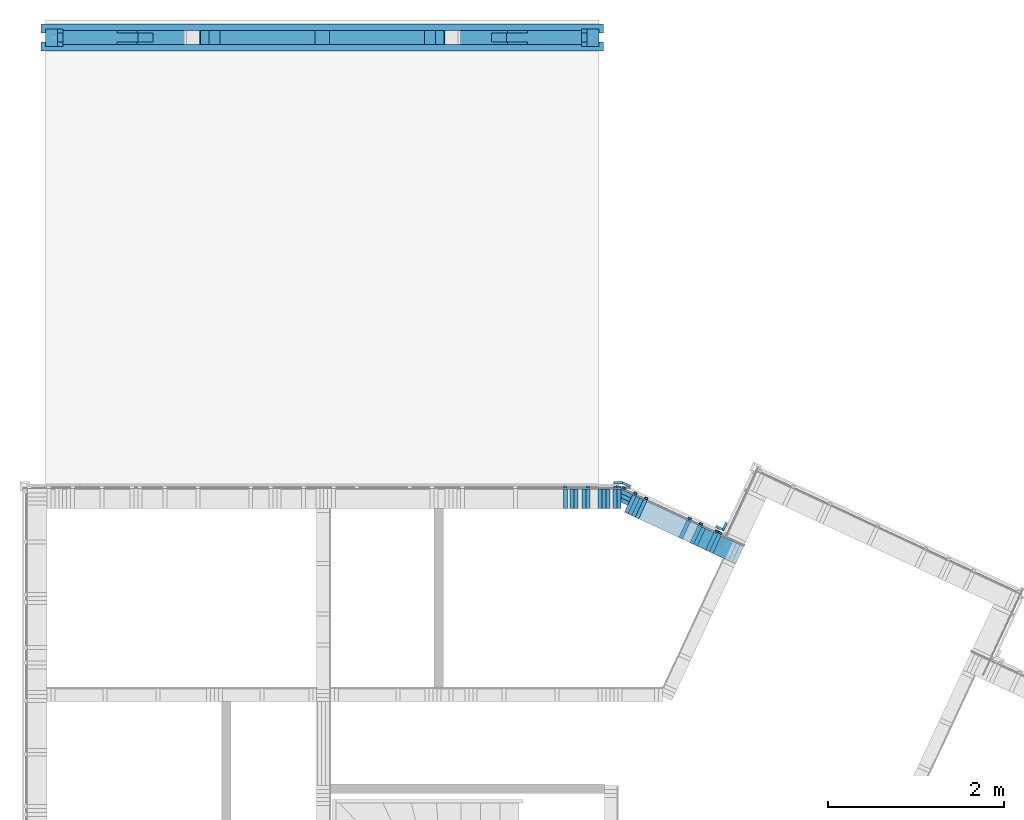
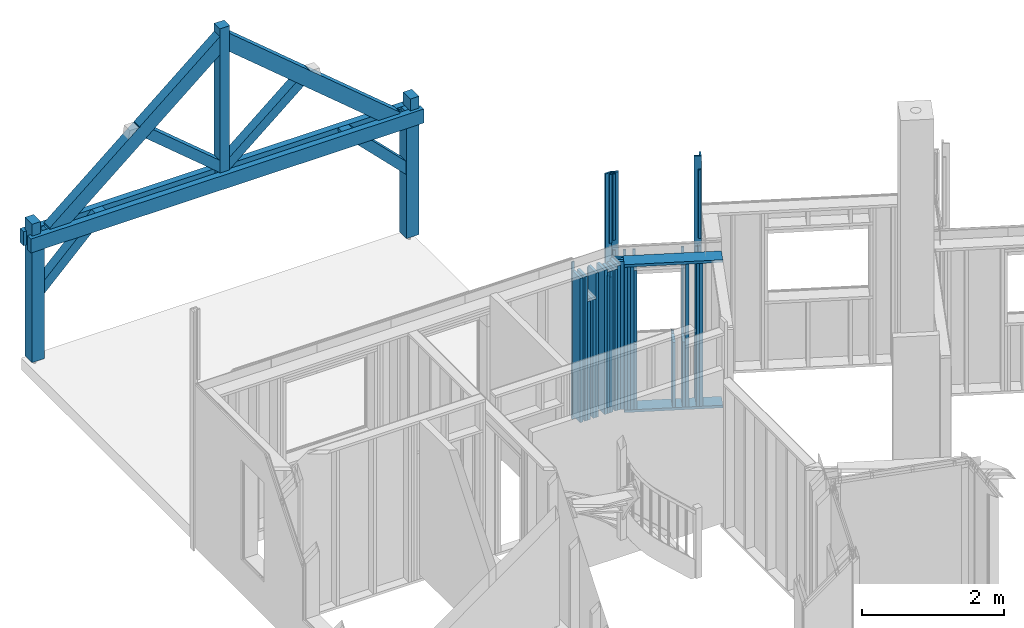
# One storey, part 14 of 34: 51 members, 3 beams.
"""IFC2X3 building model written with IfcOpenShell, lengths in metres."""

from ifc_helpers import new_model, si_unit, direction, frame, origin_with_axes, place, context, subcontext, project, spatial, faceted_brep, material, element, save


model = new_model("IFC2X3")

# Units and contexts
model_context = context("Model", 3, precision=1e-06, world=origin_with_axes(), true_north=direction((0.0, 1.0, 0.0)))
body_context = subcontext(model_context, "Body", "Model", "MODEL_VIEW")
ifc_project = project(units=[si_unit("LENGTHUNIT", "METRE"), si_unit("AREAUNIT", "SQUARE_METRE"), si_unit("VOLUMEUNIT", "CUBIC_METRE"), si_unit("PLANEANGLEUNIT", "RADIAN")], contexts=[model_context])

# Site, building, storey
site_placement = place(None, origin_with_axes())
site = spatial("IfcSite", under=ifc_project, at=site_placement, CompositionType="ELEMENT")
building_placement = place(site_placement, origin_with_axes())
building = spatial("IfcBuilding", under=site, at=building_placement, Name="Building 1", CompositionType="ELEMENT")
storey_placement = place(building_placement, origin_with_axes())
storey = spatial("IfcBuildingStorey", under=building, at=storey_placement, Name="Rez de chaussée", CompositionType="ELEMENT", Elevation=0.0)

# Members
ifc_material_1 = material(Name="NH II")
member_1_placement = place(storey_placement, frame((2.1231717, 13.0145, 3.2506677), z_axis=(0.6427876, 0.0, 0.7660444), x_axis=(0.7660444, 0.0, -0.6427876)))
element("IfcMember", 1, at=member_1_placement, inside=storey, material=ifc_material_1, Name="Contrefiche", context=body_context, shape_type="Brep", body=[
    faceted_brep([(0.0282123, 0.08, 0.08), (0.0282123, -0.08, 0.08), (1.4351717, -0.08, 0.08), (1.4351717, 0.08, 0.08), (0.0, -0.08, -0.08), (1.5694276, -0.08, -0.08), (0.0, 0.08, -0.08), (1.5694276, 0.08, -0.08)], [[[0, 1, 2, 3]], [[1, 4, 5, 2]], [[4, 6, 7, 5]], [[6, 0, 3, 7]], [[0, 6, 4, 1]], [[5, 7, 3, 2]]]),
])
member_2_placement = place(storey_placement, frame((7.8631362, 7.4516972, -0.08), z_axis=(-0.9063078, 0.4226183, 0.0), x_axis=(0.0, 0.0, 1.0)))
element("IfcMember", 2, at=member_2_placement, inside=storey, material=ifc_material_1, Name="Couvre joint", context=body_context, shape_type="Brep", body=[
    faceted_brep([(0.0, -0.0135, -0.0525), (0.0, 0.0135, -0.0255), (4.2710549, 0.0135, -0.0255), (4.2710549, -0.0135, -0.0525), (0.0, 0.0135, 0.0525), (4.2710549, 0.0135, 0.0525), (0.0, -0.0135, 0.0525), (4.2710549, -0.0135, 0.0525)], [[[0, 1, 2, 3]], [[2, 1, 4, 5]], [[1, 0, 6, 4]], [[3, 2, 5, 7]], [[7, 6, 0, 3]], [[5, 4, 6, 7]]]),
])
ifc_material_2 = material(Name="Epicéa C24")
member_3_placement = place(storey_placement, frame((6.7878318, 7.7997503, 0.045), z_axis=(-0.9063078, 0.4226183, 0.0), x_axis=(0.0, 0.0, 1.0)))
element("IfcMember", 3, at=member_3_placement, inside=storey, material=ifc_material_2, Name="Montant", context=body_context, shape_type="Brep", body=[
    faceted_brep([(2.54, -0.0225, 0.0410242), (0.0, -0.0225, 0.0410242), (0.0, -0.0225, -0.0620081), (2.54, -0.0225, -0.0620081), (0.0, 0.0225, -0.0620081), (2.54, 0.0225, -0.0620081), (0.0, 0.0225, 0.0620081), (2.54, 0.0225, 0.0620081)], [[[0, 1, 2, 3]], [[4, 5, 3, 2]], [[6, 7, 5, 4]], [[1, 6, 4, 2]], [[0, 7, 6, 1]], [[7, 0, 3, 5]]]),
])
member_4_placement = place(storey_placement, frame((6.544, 13.1165, 2.0505755), z_axis=(0.0, 0.0, 1.0), x_axis=(-1.0, 0.0, 0.0)))
element("IfcMember", 4, at=member_4_placement, inside=storey, material=ifc_material_1, Name="Entrait", context=body_context, shape_type="Brep", body=[
    faceted_brep([(0.0, -0.05, -0.12), (0.0, 0.05, -0.12), (6.38, 0.05, -0.12), (6.38, -0.05, -0.12), (0.0, -0.05, 0.12), (6.38, -0.05, 0.12), (0.0, 0.05, 0.12), (6.38, 0.05, 0.12)], [[[0, 1, 2, 3]], [[4, 0, 3, 5]], [[6, 4, 5, 7]], [[1, 6, 7, 2]], [[1, 0, 4, 6]], [[2, 7, 5, 3]]]),
])
member_5_placement = place(storey_placement, frame((6.184, 7.786, 2.568), z_axis=(0.0, 1.0, 0.0), x_axis=(0.0, 0.0, -1.0)))
element("IfcMember", 5, at=member_5_placement, inside=storey, material=ifc_material_2, Name="Montant", context=body_context, shape_type="Brep", body=[
    faceted_brep([(2.478, -0.0225, -0.11), (2.478, 0.0225, -0.11), (2.478, 0.0225, 0.11), (2.478, -0.0225, 0.11), (0.0, -0.0225, 0.11), (0.0, -0.0225, -0.11), (0.0, 0.0225, -0.11), (0.0, 0.0225, 0.11)], [[[0, 1, 2, 3]], [[0, 3, 4, 5]], [[1, 0, 5, 6]], [[2, 1, 6, 7]], [[3, 2, 7, 4]], [[4, 7, 6, 5]]]),
])
member_6_placement = place(storey_placement, frame((7.4627502, 7.4381372, 1.207), z_axis=(0.4226183, 0.9063078, 0.0), x_axis=(0.0, 0.0, -1.0)))
element("IfcMember", 6, at=member_6_placement, inside=storey, material=ifc_material_2, Name="Montant", context=body_context, shape_type="Brep", body=[
    faceted_brep([(1.117, -0.0225, -0.11), (1.117, 0.0225, -0.11), (1.117, 0.0225, 0.11), (1.117, -0.0225, 0.11), (0.0, 0.0225, -0.11), (0.0, 0.0225, 0.11), (0.0, -0.0225, -0.11), (0.0, -0.0225, 0.11)], [[[0, 1, 2, 3]], [[2, 1, 4, 5]], [[1, 0, 6, 4]], [[0, 3, 7, 6]], [[3, 2, 5, 7]], [[7, 5, 4, 6]]]),
])
member_7_placement = place(storey_placement, frame((7.5198036, 7.5604887, 1.252), z_axis=(0.4226183, 0.9063078, 0.0), x_axis=(0.0, 0.0, -1.0)))
element("IfcMember", 7, at=member_7_placement, inside=storey, material=ifc_material_2, Name="latte 27/40", context=body_context, shape_type="Brep", body=[
    faceted_brep([(1.247, 0.02, 0.012), (1.247, -0.02, 0.012), (1.247, -0.02, -0.012), (1.247, 0.02, -0.012), (0.0, -0.02, -0.012), (0.0, 0.02, -0.012), (0.0, -0.02, 0.012), (0.0, 0.02, 0.012)], [[[0, 1, 2, 3]], [[4, 5, 3, 2]], [[6, 4, 2, 1]], [[5, 7, 0, 3]], [[7, 6, 1, 0]], [[5, 4, 6, 7]]]),
])
member_8_placement = place(storey_placement, frame((6.8018622, 7.9465774, -0.08), z_axis=(-0.9063078, 0.4226183, 0.0), x_axis=(0.0, 0.0, 1.0)))
element("IfcMember", 8, at=member_8_placement, inside=storey, material=ifc_material_1, Name="Couvre joint", context=body_context, shape_type="Brep", body=[
    faceted_brep([(0.0, 0.0135, 0.0525), (0.0, -0.0135, 0.0465142), (4.0710549, -0.0135, 0.0465142), (4.0710549, 0.0135, 0.0525), (4.0710549, -0.0135, -0.0525), (4.0710549, 0.0135, -0.0525), (0.0, -0.0135, -0.0525), (0.0, 0.0135, -0.0525)], [[[0, 1, 2, 3]], [[3, 2, 4, 5]], [[2, 1, 6, 4]], [[1, 0, 7, 6]], [[4, 6, 7, 5]], [[5, 7, 0, 3]]]),
])
member_9_placement = place(storey_placement, frame((7.9149644, 7.4705611, -0.08), z_axis=(-0.4226183, -0.9063078, 0.0), x_axis=(0.0, 0.0, 1.0)))
element("IfcMember", 9, at=member_9_placement, inside=storey, material=ifc_material_1, Name="Couvre joint", context=body_context, shape_type="Brep", body=[
    faceted_brep([(0.0, 0.0135, 0.0255), (0.0, -0.0135, 0.0525), (4.2710549, -0.0135, 0.0525), (4.2710549, 0.0135, 0.0255), (4.2710549, -0.0135, -0.0525), (4.2710549, 0.0135, -0.0525), (0.0, 0.0135, -0.0525), (0.0, -0.0135, -0.0525)], [[[0, 1, 2, 3]], [[3, 2, 4, 5]], [[1, 0, 6, 7]], [[4, 7, 6, 5]], [[2, 1, 7, 4]], [[0, 3, 5, 6]]]),
])
member_10_placement = place(storey_placement, frame((6.7720997, 7.9091488, 2.675), z_axis=(0.4226183, 0.9063078, 0.0), x_axis=(0.0, 0.0, -1.0)))
element("IfcMember", 10, at=member_10_placement, inside=storey, material=ifc_material_2, Name="latte chantier", context=body_context, shape_type="Brep", body=[
    faceted_brep([(0.0, -0.02, 0.012), (0.0, -0.02, -0.012), (2.67, -0.02, -0.012), (2.67, -0.02, 0.012), (0.0, 0.02, -0.012), (2.67, 0.02, -0.012), (0.0, 0.02, 0.012), (2.67, 0.02, 0.012)], [[[0, 1, 2, 3]], [[1, 4, 5, 2]], [[4, 6, 7, 5]], [[6, 0, 3, 7]], [[0, 6, 4, 1]], [[7, 3, 2, 5]]]),
])

# Beam
beam_1_placement = place(storey_placement, frame((6.394, 13.0145, 0.0), z_axis=(-1.0, 0.0, 0.0), x_axis=(0.0, 0.0, 1.0)))
element("IfcBeam", 11, at=beam_1_placement, inside=storey, material=ifc_material_1, Name="Poteau", context=body_context, shape_type="Brep", body=[
    faceted_brep([(2.1705755, -0.052, 0.1), (1.9305755, -0.052, 0.1), (1.9305755, -0.052, -0.1), (2.1705755, -0.052, -0.1), (2.1705755, -0.052, 0.04), (2.1705755, 0.052, -0.1), (1.9305755, 0.052, -0.1), (1.9305755, 0.052, 0.1), (2.1705755, 0.052, 0.1), (2.1705755, 0.052, 0.04), (2.3755755, -0.1, -0.1), (2.3755755, -0.1, 0.04), (2.1705755, -0.1, 0.04), (2.1705755, -0.1, -0.1), (2.1705755, 0.1, -0.1), (2.1705755, 0.1, 0.04), (2.3755755, 0.1, 0.04), (2.3755755, 0.1, -0.1), (1.9305755, -0.1, -0.1), (0.0, -0.1, -0.1), (0.0, 0.1, -0.1), (1.9305755, 0.1, -0.1), (1.9305755, 0.1, 0.1), (1.9305755, -0.1, 0.1), (0.0, -0.1, 0.1), (0.0, 0.1, 0.1)], [[[0, 1, 2, 3, 4]], [[5, 6, 7, 8, 9]], [[10, 11, 12, 13]], [[12, 4, 3, 13]], [[9, 8, 0, 4]], [[14, 5, 9, 15]], [[16, 17, 14, 15]], [[11, 16, 15, 9, 4, 12]], [[10, 17, 16, 11]], [[17, 10, 13, 3, 2, 18, 19, 20, 21, 6, 5, 14]], [[6, 21, 22, 7]], [[1, 23, 18, 2]], [[18, 23, 24, 19]], [[7, 22, 25, 24, 23, 1, 0, 8]], [[22, 21, 20, 25]], [[24, 25, 20, 19]]]),
])

# Members
member_11_placement = place(storey_placement, frame((6.229, 7.786, 2.1255755), z_axis=(0.0, 1.0, 0.0), x_axis=(0.0, 0.0, -1.0)))
element("IfcMember", 12, at=member_11_placement, inside=storey, material=ifc_material_2, Name="Montant", context=body_context, shape_type="Brep", body=[
    faceted_brep([(2.0355755, 0.0225, 0.11), (2.0355755, -0.0225, 0.11), (2.0355755, -0.0225, -0.11), (2.0355755, 0.0225, -0.11), (0.0, -0.0225, 0.11), (0.0, -0.0225, -0.11), (0.0, 0.0225, 0.11), (0.0, 0.0225, -0.11)], [[[0, 1, 2, 3]], [[2, 1, 4, 5]], [[1, 0, 6, 4]], [[3, 2, 5, 7]], [[0, 3, 7, 6]], [[4, 6, 7, 5]]]),
])
member_12_placement = place(storey_placement, frame((6.7074864, 7.9675, -0.08), z_axis=(-1.0, 0.0, 0.0), x_axis=(0.0, 0.0, 1.0)))
element("IfcMember", 13, at=member_12_placement, inside=storey, material=ifc_material_1, Name="Couvre joint", context=body_context, shape_type="Brep", body=[
    faceted_brep([(0.0, -0.0135, -0.0465142), (0.0, 0.0135, -0.0525), (4.0710549, 0.0135, -0.0525), (4.0710549, -0.0135, -0.0465142), (0.0, -0.0135, 0.0525), (0.0, 0.0135, 0.0525), (4.0710549, 0.0135, 0.0525), (4.0710549, -0.0135, 0.0525)], [[[0, 1, 2, 3]], [[1, 0, 4, 5]], [[3, 2, 6, 7]], [[0, 3, 7, 4]], [[6, 5, 4, 7]], [[2, 1, 5, 6]]]),
])
member_13_placement = place(storey_placement, frame((8.0859658, 7.147527, 2.5625), z_axis=(-0.4226183, -0.9063078, 0.0), x_axis=(-0.9063078, 0.4226183, 0.0)))
element("IfcMember", 14, at=member_13_placement, inside=storey, material=ifc_material_2, Name="Montant", context=body_context, shape_type="Brep", body=[
    faceted_brep([(1.3901423, 0.0225, 0.11), (1.3901423, -0.0225, 0.11), (1.3901423, -0.0225, -0.11), (1.3901423, 0.0225, -0.11), (0.0, -0.0225, -0.11), (0.0, -0.0225, 0.11), (0.0, 0.0225, -0.11), (0.0, 0.0225, 0.11)], [[[0, 1, 2, 3]], [[4, 2, 1, 5]], [[6, 3, 2, 4]], [[7, 0, 3, 6]], [[5, 1, 0, 7]], [[5, 7, 6, 4]]]),
])
member_14_placement = place(storey_placement, frame((3.3511345, 13.0145, 4.4195652), z_axis=(-0.6427876, 0.0, 0.7660444), x_axis=(-0.7660444, 0.0, -0.6427876)))
element("IfcMember", 15, at=member_14_placement, inside=storey, material=ifc_material_1, Name="Arbalétrier", context=body_context, shape_type="Brep", body=[
    faceted_brep([(3.7291701, 0.052, -0.12), (3.8498673, 0.052, -0.018723), (3.8498673, -0.052, -0.018723), (3.7291701, -0.052, -0.12), (3.7334648, -0.052, 0.12), (3.6418172, -0.052, 0.12), (3.6189938, -0.052, 0.1008489), (3.3557964, -0.052, -0.12), (3.6418172, 0.052, 0.12), (3.7334648, 0.052, 0.12), (3.3557964, 0.052, -0.12), (3.6189938, 0.052, 0.1008489), (3.6189938, 0.08, 0.1008489), (3.6029241, 0.08, 0.12), (3.6029241, -0.08, 0.12), (3.6189938, -0.08, 0.1008489), (3.3557964, 0.08, -0.12), (1.7125867, 0.08, 0.12), (1.7125867, -0.08, 0.12), (3.3557964, -0.08, -0.12), (0.2013839, 0.08, -0.12), (0.0, 0.08, 0.12), (1.6970295, 0.08, 0.12), (1.7034574, 0.08, 0.1123396), (0.2013839, -0.08, -0.12), (1.7034574, -0.08, 0.1123396), (1.6970295, -0.08, 0.12), (0.0, -0.08, 0.12)], [[[0, 1, 2, 3]], [[4, 5, 6, 7, 3, 2]], [[8, 5, 4, 9]], [[0, 10, 11, 8, 9, 1]], [[8, 11, 6, 5]], [[12, 13, 14, 15, 6, 11]], [[12, 11, 10, 16]], [[14, 13, 17, 18]], [[6, 15, 19, 7]], [[13, 12, 16, 20, 21, 22, 23, 17]], [[10, 0, 3, 7, 19, 24, 20, 16]], [[15, 14, 18, 25, 26, 27, 24, 19]], [[26, 22, 21, 27]], [[27, 21, 20, 24]], [[25, 23, 22, 26]], [[18, 17, 23, 25]], [[1, 9, 4, 2]]]),
])
member_15_placement = place(storey_placement, frame((4.5848283, 13.0145, 3.2506677), z_axis=(-0.6427876, 0.0, 0.7660444), x_axis=(-0.7660444, 0.0, -0.6427876)))
element("IfcMember", 16, at=member_15_placement, inside=storey, material=ifc_material_1, Name="Contrefiche", context=body_context, shape_type="Brep", body=[
    faceted_brep([(0.0, -0.08, -0.08), (0.0, 0.08, -0.08), (1.5694276, 0.08, -0.08), (1.5694276, -0.08, -0.08), (0.0282123, 0.08, 0.08), (1.4351717, 0.08, 0.08), (0.0282123, -0.08, 0.08), (1.4351717, -0.08, 0.08)], [[[0, 1, 2, 3]], [[1, 4, 5, 2]], [[4, 6, 7, 5]], [[6, 0, 3, 7]], [[0, 6, 4, 1]], [[3, 2, 5, 7]]]),
])
member_16_placement = place(storey_placement, frame((6.9688124, 7.6684641, 1.207), z_axis=(0.4226183, 0.9063078, 0.0), x_axis=(0.0, 0.0, -1.0)))
element("IfcMember", 17, at=member_16_placement, inside=storey, material=ifc_material_2, Name="Montant", context=body_context, shape_type="Brep", body=[
    faceted_brep([(1.117, -0.0225, -0.11), (1.117, 0.0225, -0.11), (1.117, 0.0225, 0.11), (1.117, -0.0225, 0.11), (0.0, 0.0225, -0.11), (0.0, 0.0225, 0.11), (0.0, -0.0225, -0.11), (0.0, -0.0225, 0.11)], [[[0, 1, 2, 3]], [[2, 1, 4, 5]], [[1, 0, 6, 4]], [[0, 3, 7, 6]], [[3, 2, 5, 7]], [[7, 5, 4, 6]]]),
])
member_17_placement = place(storey_placement, frame((6.7973407, 7.8449683, 0.045), z_axis=(-0.9063078, 0.4226183, 0.0), x_axis=(0.0, 0.0, 1.0)))
element("IfcMember", 18, at=member_17_placement, inside=storey, material=ifc_material_2, Name="Montant", context=body_context, shape_type="Brep", body=[
    faceted_brep([(2.54, -0.0225, 0.0515162), (0.0, -0.0225, 0.0515162), (0.0, -0.0225, -0.0725), (2.54, -0.0225, -0.0725), (0.0, 0.0225, -0.0725), (2.54, 0.0225, -0.0725), (0.0, 0.0225, 0.0725), (2.54, 0.0225, 0.0725)], [[[0, 1, 2, 3]], [[4, 5, 3, 2]], [[6, 7, 5, 4]], [[0, 7, 6, 1]], [[7, 0, 3, 5]], [[1, 6, 4, 2]]]),
])
member_18_placement = place(storey_placement, frame((6.8464609, 7.7255176, 2.54), z_axis=(0.4226183, 0.9063078, 0.0), x_axis=(0.0, 0.0, -1.0)))
element("IfcMember", 19, at=member_18_placement, inside=storey, material=ifc_material_2, Name="Montant", context=body_context, shape_type="Brep", body=[
    faceted_brep([(0.0, 0.0225, 0.11), (0.0, -0.0225, 0.11), (2.45, -0.0225, 0.11), (2.45, 0.0225, 0.11), (2.45, -0.0225, -0.11), (2.45, 0.0225, -0.11), (0.0, -0.0225, -0.11), (0.0, 0.0225, -0.11)], [[[0, 1, 2, 3]], [[4, 5, 3, 2]], [[4, 2, 1, 6]], [[5, 4, 6, 7]], [[3, 5, 7, 0]], [[1, 0, 7, 6]]]),
])
member_19_placement = place(storey_placement, frame((6.364, 7.786, 2.568), z_axis=(0.0, 1.0, 0.0), x_axis=(0.0, 0.0, -1.0)))
element("IfcMember", 20, at=member_19_placement, inside=storey, material=ifc_material_2, Name="Montant", context=body_context, shape_type="Brep", body=[
    faceted_brep([(2.478, -0.0225, -0.11), (2.478, 0.0225, -0.11), (2.478, 0.0225, 0.11), (2.478, -0.0225, 0.11), (0.0, -0.0225, 0.11), (0.0, -0.0225, -0.11), (0.0, 0.0225, -0.11), (0.0, 0.0225, 0.11)], [[[0, 1, 2, 3]], [[0, 3, 4, 5]], [[1, 0, 5, 6]], [[2, 1, 6, 7]], [[3, 2, 7, 4]], [[4, 7, 6, 5]]]),
])
member_20_placement = place(storey_placement, frame((3.3568655, 13.0145, 4.4195652), z_axis=(0.6427876, 0.0, 0.7660444), x_axis=(0.7660444, 0.0, -0.6427876)))
element("IfcMember", 21, at=member_20_placement, inside=storey, material=ifc_material_1, Name="Arbalétrier", context=body_context, shape_type="Brep", body=[
    faceted_brep([(3.3557964, -0.052, -0.12), (3.7291701, -0.052, -0.12), (3.8498673, -0.052, -0.018723), (3.7334648, -0.052, 0.12), (3.6418172, -0.052, 0.12), (3.6189938, -0.052, 0.1008489), (3.6418172, 0.052, 0.12), (3.7334648, 0.052, 0.12), (3.8498673, 0.052, -0.018723), (3.7291701, 0.052, -0.12), (3.3557964, 0.052, -0.12), (3.6189938, 0.052, 0.1008489), (3.6189938, 0.08, 0.1008489), (3.6029241, 0.08, 0.12), (3.6029241, -0.08, 0.12), (3.6189938, -0.08, 0.1008489), (3.3557964, 0.08, -0.12), (1.7125867, -0.08, 0.12), (1.7034574, -0.08, 0.1123396), (1.6970295, -0.08, 0.12), (0.0, -0.08, 0.12), (0.2013839, -0.08, -0.12), (3.3557964, -0.08, -0.12), (0.2013839, 0.08, -0.12), (1.7125867, 0.08, 0.12), (0.0, 0.08, 0.12), (1.6970295, 0.08, 0.12), (1.7034574, 0.08, 0.1123396)], [[[0, 1, 2, 3, 4, 5]], [[6, 4, 3, 7]], [[7, 8, 9, 10, 11, 6]], [[2, 8, 7, 3]], [[1, 9, 8, 2]], [[6, 11, 5, 4]], [[12, 13, 14, 15, 5, 11]], [[12, 11, 10, 16]], [[15, 14, 17, 18, 19, 20, 21, 22]], [[9, 1, 0, 22, 21, 23, 16, 10]], [[14, 13, 24, 17]], [[13, 12, 16, 23, 25, 26, 27, 24]], [[5, 15, 22, 0]], [[19, 26, 25, 20]], [[18, 27, 26, 19]], [[17, 24, 27, 18]], [[20, 25, 23, 21]]]),
])
member_21_placement = place(storey_placement, frame((7.8661422, 7.3989884, 3.9860549), z_axis=(0.4226183, 0.9063078, 0.0), x_axis=(0.0, 0.0, -1.0)))
element("IfcMember", 22, at=member_21_placement, inside=storey, material=ifc_material_2, Name="latte chantier", context=body_context, shape_type="Brep", body=[
    faceted_brep([(1.1760549, -0.02, 0.012), (0.0, -0.02, 0.012), (0.0, -0.02, -0.012), (1.1760549, -0.02, -0.012), (1.1760549, 0.02, -0.012), (0.0, 0.02, -0.012), (0.0, 0.02, 0.012), (1.1760549, 0.02, 0.012)], [[[0, 1, 2, 3]], [[4, 3, 2, 5]], [[6, 7, 4, 5]], [[0, 7, 6, 1]], [[7, 0, 3, 4]], [[1, 6, 5, 2]]]),
])
member_22_placement = place(storey_placement, frame((6.7186423, 7.921, 3.9910549), z_axis=(0.0, 1.0, 0.0), x_axis=(0.0, 0.0, -1.0)))
element("IfcMember", 23, at=member_22_placement, inside=storey, material=ifc_material_2, Name="latte chantier", context=body_context, shape_type="Brep", body=[
    faceted_brep([(1.1810549, 0.02, -0.012), (1.1810549, 0.02, 0.012), (1.1810549, -0.02, 0.012), (1.1810549, -0.02, -0.012), (0.0, 0.02, 0.012), (0.0, 0.02, -0.012), (0.0, -0.02, -0.012), (0.0, -0.02, 0.012)], [[[0, 1, 2, 3]], [[4, 5, 6, 7]], [[3, 6, 5, 0]], [[2, 7, 6, 3]], [[1, 4, 7, 2]], [[0, 5, 4, 1]]]),
])
member_23_placement = place(storey_placement, frame((7.8661422, 7.3989884, 2.675), z_axis=(0.4226183, 0.9063078, 0.0), x_axis=(0.0, 0.0, -1.0)))
element("IfcMember", 24, at=member_23_placement, inside=storey, material=ifc_material_2, Name="latte chantier", context=body_context, shape_type="Brep", body=[
    faceted_brep([(0.0, -0.02, 0.012), (0.0, -0.02, -0.012), (2.67, -0.02, -0.012), (2.67, -0.02, 0.012), (0.0, 0.02, -0.012), (2.67, 0.02, -0.012), (0.0, 0.02, 0.012), (2.67, 0.02, 0.012)], [[[0, 1, 2, 3]], [[1, 4, 5, 2]], [[4, 6, 7, 5]], [[6, 0, 3, 7]], [[0, 6, 4, 1]], [[7, 3, 2, 5]]]),
])
member_24_placement = place(storey_placement, frame((6.9280286, 7.6874819, 2.54), z_axis=(0.4226183, 0.9063078, 0.0), x_axis=(0.0, 0.0, -1.0)))
element("IfcMember", 25, at=member_24_placement, inside=storey, material=ifc_material_2, Name="Montant", context=body_context, shape_type="Brep", body=[
    faceted_brep([(0.0, 0.0225, 0.11), (0.0, -0.0225, 0.11), (2.45, -0.0225, 0.11), (2.45, 0.0225, 0.11), (2.45, -0.0225, -0.11), (2.45, 0.0225, -0.11), (0.0, -0.0225, -0.11), (0.0, 0.0225, -0.11)], [[[0, 1, 2, 3]], [[4, 5, 3, 2]], [[4, 2, 1, 6]], [[5, 4, 6, 7]], [[3, 5, 7, 0]], [[1, 0, 7, 6]]]),
])
member_25_placement = place(storey_placement, frame((6.9688124, 7.6684641, 2.475), z_axis=(0.4226183, 0.9063078, 0.0), x_axis=(0.0, 0.0, -1.0)))
element("IfcMember", 26, at=member_25_placement, inside=storey, material=ifc_material_2, Name="Montant", context=body_context, shape_type="Brep", body=[
    faceted_brep([(1.223, -0.0225, -0.11), (1.223, 0.0225, -0.11), (1.223, 0.0225, 0.11), (1.223, -0.0225, 0.11), (0.0, 0.0225, -0.11), (0.0, 0.0225, 0.11), (0.0, -0.0225, -0.11), (0.0, -0.0225, 0.11)], [[[0, 1, 2, 3]], [[2, 1, 4, 5]], [[1, 0, 6, 4]], [[0, 3, 7, 6]], [[3, 2, 5, 7]], [[7, 5, 4, 6]]]),
])
member_26_placement = place(storey_placement, frame((7.0258659, 7.7908157, 2.675), z_axis=(0.4226183, 0.9063078, 0.0), x_axis=(0.0, 0.0, -1.0)))
element("IfcMember", 27, at=member_26_placement, inside=storey, material=ifc_material_2, Name="latte 27/40", context=body_context, shape_type="Brep", body=[
    faceted_brep([(0.0, -0.02, 0.012), (0.0, -0.02, -0.012), (2.67, -0.02, -0.012), (2.67, -0.02, 0.012), (0.0, 0.02, -0.012), (2.67, 0.02, -0.012), (0.0, 0.02, 0.012), (2.67, 0.02, 0.012)], [[[0, 1, 2, 3]], [[1, 4, 5, 2]], [[4, 6, 7, 5]], [[6, 0, 3, 7]], [[0, 6, 4, 1]], [[7, 3, 2, 5]]]),
])
member_27_placement = place(storey_placement, frame((7.5896333, 7.3789706, 1.207), z_axis=(0.4226183, 0.9063078, 0.0), x_axis=(0.0, 0.0, -1.0)))
element("IfcMember", 28, at=member_27_placement, inside=storey, material=ifc_material_2, Name="Montant", context=body_context, shape_type="Brep", body=[
    faceted_brep([(1.117, -0.0225, -0.11), (1.117, 0.0225, -0.11), (1.117, 0.0225, 0.11), (1.117, -0.0225, 0.11), (0.0, 0.0225, -0.11), (0.0, 0.0225, 0.11), (0.0, -0.0225, -0.11), (0.0, -0.0225, 0.11)], [[[0, 1, 2, 3]], [[2, 1, 4, 5]], [[1, 0, 6, 4]], [[0, 3, 7, 6]], [[3, 2, 5, 7]], [[7, 5, 4, 6]]]),
])
member_28_placement = place(storey_placement, frame((7.6304171, 7.3599528, 2.54), z_axis=(0.4226183, 0.9063078, 0.0), x_axis=(0.0, 0.0, -1.0)))
element("IfcMember", 29, at=member_28_placement, inside=storey, material=ifc_material_2, Name="Montant", context=body_context, shape_type="Brep", body=[
    faceted_brep([(0.0, 0.0225, 0.11), (0.0, -0.0225, 0.11), (2.45, -0.0225, 0.11), (2.45, 0.0225, 0.11), (2.45, -0.0225, -0.11), (2.45, 0.0225, -0.11), (0.0, -0.0225, -0.11), (0.0, 0.0225, -0.11)], [[[0, 1, 2, 3]], [[4, 5, 3, 2]], [[4, 2, 1, 6]], [[5, 4, 6, 7]], [[3, 5, 7, 0]], [[1, 0, 7, 6]]]),
])
for number, where, z_axis, x_axis, name in (
    (30, (7.6466867, 7.5013222, 2.675), (0.4226183, 0.9063078, 0.0), (0.0, 0.0, -1.0), "latte 27/40"),
    (31, (6.9035143, 7.8478691, 2.675), (0.4226183, 0.9063078, 0.0), (0.0, 0.0, -1.0), "latte 27/40"),
):
    element("IfcMember", number, at=place(storey_placement, frame(where, z_axis=z_axis, x_axis=x_axis)), inside=storey, material=ifc_material_2, Name=name, context=body_context, shape_type="Brep", body=[
        faceted_brep([(0.0, -0.02, 0.012), (0.0, -0.02, -0.012), (2.67, -0.02, -0.012), (2.67, -0.02, 0.012), (0.0, 0.02, -0.012), (2.67, 0.02, -0.012), (0.0, 0.02, 0.012), (2.67, 0.02, 0.012)], [[[0, 1, 2, 3]], [[1, 4, 5, 2]], [[4, 6, 7, 5]], [[6, 0, 3, 7]], [[0, 6, 4, 1]], [[7, 3, 2, 5]]]),
    ])
member_29_placement = place(storey_placement, frame((6.7720997, 7.9091488, 3.9860549), z_axis=(0.4226183, 0.9063078, 0.0), x_axis=(0.0, 0.0, -1.0)))
element("IfcMember", 32, at=member_29_placement, inside=storey, material=ifc_material_2, Name="latte chantier", context=body_context, shape_type="Brep", body=[
    faceted_brep([(1.1360549, -0.02, -0.012), (1.1360549, -0.02, 0.012), (0.0, -0.02, 0.012), (0.0, -0.02, -0.012), (1.1360549, 0.02, -0.012), (0.0, 0.02, -0.012), (1.1360549, 0.02, 0.012), (0.0, 0.02, 0.012)], [[[0, 1, 2, 3]], [[4, 0, 3, 5]], [[6, 4, 5, 7]], [[1, 6, 7, 2]], [[4, 6, 1, 0]], [[2, 7, 5, 3]]]),
])
member_30_placement = place(storey_placement, frame((8.0859658, 7.147527, 0.0675), z_axis=(-0.4226183, -0.9063078, 0.0), x_axis=(-0.9063078, 0.4226183, 0.0)))
element("IfcMember", 33, at=member_30_placement, inside=storey, material=ifc_material_2, Name="Lisse basse", context=body_context, shape_type="Brep", body=[
    faceted_brep([(1.3901423, 0.0225, 0.11), (1.3901423, -0.0225, 0.11), (1.3901423, -0.0225, -0.11), (1.3901423, 0.0225, -0.11), (0.0, -0.0225, -0.11), (0.0, -0.0225, 0.11), (0.0, 0.0225, -0.11), (0.0, 0.0225, 0.11)], [[[0, 1, 2, 3]], [[4, 2, 1, 5]], [[6, 3, 2, 4]], [[7, 0, 3, 6]], [[5, 1, 0, 7]], [[5, 7, 6, 4]]]),
])
member_31_placement = place(storey_placement, frame((1.4085584, 13.0145, 2.1988598), z_axis=(-0.7071068, 0.0, 0.7071068), x_axis=(-0.7071068, 0.0, -0.7071068)))
element("IfcMember", 34, at=member_31_placement, inside=storey, material=ifc_material_1, Name="Bras de force", context=body_context, shape_type="Brep", body=[
    faceted_brep([(1.486518, -0.08, -0.08), (1.326518, -0.08, 0.08), (0.4594113, -0.08, 0.08), (0.2994113, -0.08, -0.08), (1.326518, 0.08, 0.08), (0.4594113, 0.08, 0.08), (0.4594113, 0.052, 0.08), (0.12, 0.052, 0.08), (0.12, -0.052, 0.08), (0.4594113, -0.052, 0.08), (1.486518, 0.08, -0.08), (0.2994113, 0.08, -0.08), (0.04, -0.052, -0.08), (0.2994113, -0.052, -0.08), (0.0, -0.052, -0.04), (0.0, 0.052, -0.04), (0.04, 0.052, -0.08), (0.2994113, 0.052, -0.08)], [[[0, 1, 2, 3]], [[1, 4, 5, 6, 7, 8, 9, 2]], [[4, 10, 11, 5]], [[12, 13, 9, 8, 14]], [[13, 3, 2, 9]], [[12, 14, 15, 16]], [[11, 17, 6, 5]], [[17, 16, 15, 7, 6]], [[14, 8, 7, 15]], [[10, 0, 3, 13, 12, 16, 17, 11]], [[0, 10, 4, 1]]]),
])
member_32_placement = place(storey_placement, frame((6.319, 7.786, 2.1255755), z_axis=(0.0, 1.0, 0.0), x_axis=(0.0, 0.0, -1.0)))
element("IfcMember", 35, at=member_32_placement, inside=storey, material=ifc_material_2, Name="Montant", context=body_context, shape_type="Brep", body=[
    faceted_brep([(2.0355755, 0.0225, 0.11), (2.0355755, -0.0225, 0.11), (2.0355755, -0.0225, -0.11), (2.0355755, 0.0225, -0.11), (0.0, -0.0225, 0.11), (0.0, -0.0225, -0.11), (0.0, 0.0225, 0.11), (0.0, 0.0225, -0.11)], [[[0, 1, 2, 3]], [[2, 1, 4, 5]], [[1, 0, 6, 4]], [[3, 2, 5, 7]], [[0, 3, 7, 6]], [[4, 6, 7, 5]]]),
])
member_33_placement = place(storey_placement, frame((5.2994415, 13.0145, 2.1988598), z_axis=(0.7071068, 0.0, 0.7071068), x_axis=(0.7071068, 0.0, -0.7071068)))
element("IfcMember", 36, at=member_33_placement, inside=storey, material=ifc_material_1, Name="Bras de force", context=body_context, shape_type="Brep", body=[
    faceted_brep([(1.486518, -0.08, -0.08), (1.326518, -0.08, 0.08), (0.4594113, -0.08, 0.08), (0.2994113, -0.08, -0.08), (1.326518, 0.08, 0.08), (0.4594113, 0.08, 0.08), (0.4594113, 0.052, 0.08), (0.12, 0.052, 0.08), (0.12, -0.052, 0.08), (0.4594113, -0.052, 0.08), (1.486518, 0.08, -0.08), (0.2994113, 0.08, -0.08), (0.2994113, 0.052, -0.08), (0.04, 0.052, -0.08), (0.0, 0.052, -0.04), (0.04, -0.052, -0.08), (0.2994113, -0.052, -0.08), (0.0, -0.052, -0.04)], [[[0, 1, 2, 3]], [[1, 4, 5, 6, 7, 8, 9, 2]], [[4, 10, 11, 5]], [[11, 12, 6, 5]], [[12, 13, 14, 7, 6]], [[15, 16, 9, 8, 17]], [[16, 3, 2, 9]], [[14, 13, 15, 17]], [[7, 14, 17, 8]], [[10, 0, 3, 16, 15, 13, 12, 11]], [[0, 10, 4, 1]]]),
])
member_34_placement = place(storey_placement, frame((6.364, 7.921, 2.5253271), z_axis=(0.0, 1.0, 0.0), x_axis=(0.0, 0.0, -1.0)))
element("IfcMember", 37, at=member_34_placement, inside=storey, material=ifc_material_2, Name="latte 27/40", context=body_context, shape_type="Brep", body=[
    faceted_brep([(2.5203271, 0.02, -0.012), (2.5203271, 0.02, 0.012), (2.5203271, -0.02, 0.012), (2.5203271, -0.02, -0.012), (0.0, 0.02, 0.012), (0.0, 0.02, -0.012), (0.0, -0.02, -0.012), (0.0, -0.02, 0.012)], [[[0, 1, 2, 3]], [[4, 5, 6, 7]], [[3, 6, 5, 0]], [[2, 7, 6, 3]], [[1, 4, 7, 2]], [[0, 5, 4, 1]]]),
])
for number, where, z_axis, x_axis, name in (
    (38, (6.7186423, 7.786, 2.568), (0.0, 1.0, 0.0), (0.0, 0.0, -1.0), "Montant"),
    (39, (6.109, 7.786, 2.568), (0.0, 1.0, 0.0), (0.0, 0.0, -1.0), "Montant"),
):
    element("IfcMember", number, at=place(storey_placement, frame(where, z_axis=z_axis, x_axis=x_axis)), inside=storey, material=ifc_material_2, Name=name, context=body_context, shape_type="Brep", body=[
        faceted_brep([(2.478, -0.0225, -0.11), (2.478, 0.0225, -0.11), (2.478, 0.0225, 0.11), (2.478, -0.0225, 0.11), (0.0, -0.0225, 0.11), (0.0, -0.0225, -0.11), (0.0, 0.0225, -0.11), (0.0, 0.0225, 0.11)], [[[0, 1, 2, 3]], [[0, 3, 4, 5]], [[1, 0, 5, 6]], [[2, 1, 6, 7]], [[3, 2, 7, 4]], [[4, 7, 6, 5]]]),
    ])
member_35_placement = place(storey_placement, frame((6.109, 7.921, 2.703), z_axis=(0.0, 1.0, 0.0), x_axis=(0.0, 0.0, -1.0)))
element("IfcMember", 40, at=member_35_placement, inside=storey, material=ifc_material_2, Name="latte 27/40", context=body_context, shape_type="Brep", body=[
    faceted_brep([(2.698, 0.02, -0.012), (2.698, 0.02, 0.012), (2.698, -0.02, 0.012), (2.698, -0.02, -0.012), (0.0, 0.02, 0.012), (0.0, 0.02, -0.012), (0.0, -0.02, -0.012), (0.0, -0.02, 0.012)], [[[0, 1, 2, 3]], [[4, 5, 6, 7]], [[3, 6, 5, 0]], [[2, 7, 6, 3]], [[1, 4, 7, 2]], [[0, 5, 4, 1]]]),
])
member_36_placement = place(storey_placement, frame((6.6736423, 7.921, 2.2655063), z_axis=(0.0, 1.0, 0.0), x_axis=(0.0, 0.0, -1.0)))
element("IfcMember", 41, at=member_36_placement, inside=storey, material=ifc_material_2, Name="latte 27/40", context=body_context, shape_type="Brep", body=[
    faceted_brep([(2.2605063, 0.02, -0.012), (2.2605063, 0.02, 0.012), (2.2605063, -0.02, 0.012), (2.2605063, -0.02, -0.012), (0.0, 0.02, 0.012), (0.0, 0.02, -0.012), (0.0, -0.02, -0.012), (0.0, -0.02, 0.012)], [[[0, 1, 2, 3]], [[4, 5, 6, 7]], [[3, 6, 5, 0]], [[2, 7, 6, 3]], [[1, 4, 7, 2]], [[0, 5, 4, 1]]]),
])
member_37_placement = place(storey_placement, frame((6.7186423, 7.921, 2.2277469), z_axis=(0.0, 1.0, 0.0), x_axis=(0.0, 0.0, -1.0)))
element("IfcMember", 42, at=member_37_placement, inside=storey, material=ifc_material_2, Name="latte chantier", context=body_context, shape_type="Brep", body=[
    faceted_brep([(2.2227469, 0.02, -0.012), (2.2227469, 0.02, 0.012), (2.2227469, -0.02, 0.012), (2.2227469, -0.02, -0.012), (0.0, 0.02, 0.012), (0.0, 0.02, -0.012), (0.0, -0.02, -0.012), (0.0, -0.02, 0.012)], [[[0, 1, 2, 3]], [[4, 5, 6, 7]], [[3, 6, 5, 0]], [[2, 7, 6, 3]], [[1, 4, 7, 2]], [[0, 5, 4, 1]]]),
])

# Beams
beam_2_placement = place(storey_placement, frame((3.354, 13.0145, 1.9305755), z_axis=(-1.0, 0.0, 0.0), x_axis=(0.0, 0.0, 1.0)))
element("IfcBeam", 43, at=beam_2_placement, inside=storey, material=ifc_material_1, Name="Poinçon", context=body_context, shape_type="Brep", body=[
    faceted_brep([(0.24, 0.08, -0.08), (0.24, 0.052, -0.08), (0.24, 0.052, 0.08), (0.24, 0.08, 0.08), (0.0, 0.052, -0.08), (0.0, 0.052, 0.08), (2.7151709, 0.08, -0.08), (2.7151709, -0.08, -0.08), (0.24, -0.08, -0.08), (0.24, -0.052, -0.08), (0.0, -0.052, -0.08), (2.7151709, 0.08, 0.08), (0.24, -0.052, 0.08), (0.0, -0.052, 0.08), (0.24, -0.08, 0.08), (2.7151709, -0.08, 0.08)], [[[0, 1, 2, 3]], [[1, 4, 5, 2]], [[4, 1, 0, 6, 7, 8, 9, 10]], [[0, 3, 11, 6]], [[10, 9, 12, 13]], [[9, 8, 14, 12]], [[5, 4, 10, 13]], [[2, 5, 13, 12, 14, 15, 11, 3]], [[7, 6, 11, 15]], [[14, 8, 7, 15]]]),
])
beam_3_placement = place(storey_placement, frame((0.314, 13.0145, 0.0), z_axis=(1.0, 0.0, 0.0), x_axis=(0.0, 0.0, 1.0)))
element("IfcBeam", 44, at=beam_3_placement, inside=storey, material=ifc_material_1, Name="Poteau", context=body_context, shape_type="Brep", body=[
    faceted_brep([(2.1705755, -0.052, 0.1), (1.9305755, -0.052, 0.1), (1.9305755, -0.052, -0.1), (2.1705755, -0.052, -0.1), (2.1705755, -0.052, 0.04), (2.1705755, 0.052, -0.1), (1.9305755, 0.052, -0.1), (1.9305755, 0.052, 0.1), (2.1705755, 0.052, 0.1), (2.1705755, 0.052, 0.04), (2.3755755, -0.1, -0.1), (2.3755755, -0.1, 0.04), (2.1705755, -0.1, 0.04), (2.1705755, -0.1, -0.1), (2.1705755, 0.1, -0.1), (2.1705755, 0.1, 0.04), (2.3755755, 0.1, 0.04), (2.3755755, 0.1, -0.1), (1.9305755, -0.1, -0.1), (0.0, -0.1, -0.1), (0.0, 0.1, -0.1), (1.9305755, 0.1, -0.1), (1.9305755, 0.1, 0.1), (1.9305755, -0.1, 0.1), (0.0, 0.1, 0.1), (0.0, -0.1, 0.1)], [[[0, 1, 2, 3, 4]], [[5, 6, 7, 8, 9]], [[10, 11, 12, 13]], [[12, 4, 3, 13]], [[9, 8, 0, 4]], [[14, 5, 9, 15]], [[16, 17, 14, 15]], [[11, 16, 15, 9, 4, 12]], [[10, 17, 16, 11]], [[17, 10, 13, 3, 2, 18, 19, 20, 21, 6, 5, 14]], [[6, 21, 22, 7]], [[1, 23, 18, 2]], [[7, 22, 24, 25, 23, 1, 0, 8]], [[18, 23, 25, 19]], [[25, 24, 20, 19]], [[22, 21, 20, 24]]]),
])

# Members
member_38_placement = place(storey_placement, frame((6.544, 12.9125, 2.0505755), z_axis=(0.0, 0.0, 1.0), x_axis=(-1.0, 0.0, 0.0)))
element("IfcMember", 45, at=member_38_placement, inside=storey, material=ifc_material_1, Name="Entrait", context=body_context, shape_type="Brep", body=[
    faceted_brep([(0.0, -0.05, -0.12), (0.0, 0.05, -0.12), (6.38, 0.05, -0.12), (6.38, -0.05, -0.12), (0.0, -0.05, 0.12), (6.38, -0.05, 0.12), (0.0, 0.05, 0.12), (6.38, 0.05, 0.12)], [[[0, 1, 2, 3]], [[4, 0, 3, 5]], [[6, 4, 5, 7]], [[1, 6, 7, 2]], [[1, 0, 4, 6]], [[2, 7, 5, 3]]]),
])
for number, where, z_axis, x_axis, name in (
    (46, (7.8090887, 7.2766369, 2.54), (0.4226183, 0.9063078, 0.0), (0.0, 0.0, -1.0), "Montant"),
    (47, (7.7683049, 7.2956547, 2.54), (0.4226183, 0.9063078, 0.0), (0.0, 0.0, -1.0), "Montant"),
):
    element("IfcMember", number, at=place(storey_placement, frame(where, z_axis=z_axis, x_axis=x_axis)), inside=storey, material=ifc_material_2, Name=name, context=body_context, shape_type="Brep", body=[
        faceted_brep([(0.0, 0.0225, 0.11), (0.0, -0.0225, 0.11), (2.45, -0.0225, 0.11), (2.45, 0.0225, 0.11), (2.45, -0.0225, -0.11), (2.45, 0.0225, -0.11), (0.0, -0.0225, -0.11), (0.0, 0.0225, -0.11)], [[[0, 1, 2, 3]], [[4, 5, 3, 2]], [[4, 2, 1, 6]], [[5, 4, 6, 7]], [[3, 5, 7, 0]], [[1, 0, 7, 6]]]),
    ])
member_39_placement = place(storey_placement, frame((7.8253583, 7.4180062, 2.675), z_axis=(0.4226183, 0.9063078, 0.0), x_axis=(0.0, 0.0, -1.0)))
element("IfcMember", 48, at=member_39_placement, inside=storey, material=ifc_material_2, Name="latte 27/40", context=body_context, shape_type="Brep", body=[
    faceted_brep([(0.0, -0.02, 0.012), (0.0, -0.02, -0.012), (2.67, -0.02, -0.012), (2.67, -0.02, 0.012), (0.0, 0.02, -0.012), (2.67, 0.02, -0.012), (0.0, 0.02, 0.012), (2.67, 0.02, 0.012)], [[[0, 1, 2, 3]], [[1, 4, 5, 2]], [[4, 6, 7, 5]], [[6, 0, 3, 7]], [[0, 6, 4, 1]], [[7, 3, 2, 5]]]),
])
member_40_placement = place(storey_placement, frame((6.5035, 7.786, 2.568), z_axis=(0.0, 1.0, 0.0), x_axis=(0.0, 0.0, -1.0)))
element("IfcMember", 49, at=member_40_placement, inside=storey, material=ifc_material_2, Name="Montant", context=body_context, shape_type="Brep", body=[
    faceted_brep([(2.478, -0.0225, -0.11), (2.478, 0.0225, -0.11), (2.478, 0.0225, 0.11), (2.478, -0.0225, 0.11), (0.0, -0.0225, 0.11), (0.0, -0.0225, -0.11), (0.0, 0.0225, -0.11), (0.0, 0.0225, 0.11)], [[[0, 1, 2, 3]], [[0, 3, 4, 5]], [[1, 0, 5, 6]], [[2, 1, 6, 7]], [[3, 2, 7, 4]], [[4, 7, 6, 5]]]),
])
for number, where, z_axis, x_axis, name in (
    (50, (6.5485, 7.786, 2.52), (0.0, 1.0, 0.0), (0.0, 0.0, -1.0), "Montant"),
    (51, (6.6736423, 7.786, 2.52), (0.0, 1.0, 0.0), (0.0, 0.0, -1.0), "Montant"),
):
    element("IfcMember", number, at=place(storey_placement, frame(where, z_axis=z_axis, x_axis=x_axis)), inside=storey, material=ifc_material_2, Name=name, context=body_context, shape_type="Brep", body=[
        faceted_brep([(2.43, -0.0225, -0.11), (2.43, 0.0225, -0.11), (2.43, 0.0225, 0.11), (2.43, -0.0225, 0.11), (0.0, -0.0225, 0.11), (0.0, -0.0225, -0.11), (0.0, 0.0225, -0.11), (0.0, 0.0225, 0.11)], [[[0, 1, 2, 3]], [[0, 3, 4, 5]], [[1, 0, 5, 6]], [[2, 1, 6, 7]], [[3, 2, 7, 4]], [[4, 7, 6, 5]]]),
    ])
member_41_placement = place(storey_placement, frame((6.7783229, 7.7545324, 0.045), z_axis=(-0.9063078, 0.4226183, 0.0), x_axis=(0.0, 0.0, 1.0)))
element("IfcMember", 52, at=member_41_placement, inside=storey, material=ifc_material_2, Name="Montant", context=body_context, shape_type="Brep", body=[
    faceted_brep([(2.54, -0.0225, 0.0305323), (0.0, -0.0225, 0.0305323), (0.0, -0.0225, -0.0515162), (2.54, -0.0225, -0.0515162), (0.0, 0.0225, -0.0515162), (2.54, 0.0225, -0.0515162), (0.0, 0.0225, 0.0515162), (2.54, 0.0225, 0.0515162)], [[[0, 1, 2, 3]], [[4, 5, 3, 2]], [[6, 7, 5, 4]], [[1, 6, 4, 2]], [[0, 7, 6, 1]], [[7, 0, 3, 5]]]),
])
member_42_placement = place(storey_placement, frame((6.5935, 7.786, 2.52), z_axis=(0.0, 1.0, 0.0), x_axis=(0.0, 0.0, -1.0)))
element("IfcMember", 53, at=member_42_placement, inside=storey, material=ifc_material_2, Name="Montant", context=body_context, shape_type="Brep", body=[
    faceted_brep([(2.43, -0.0225, -0.11), (2.43, 0.0225, -0.11), (2.43, 0.0225, 0.11), (2.43, -0.0225, 0.11), (0.0, -0.0225, 0.11), (0.0, -0.0225, -0.11), (0.0, 0.0225, -0.11), (0.0, 0.0225, 0.11)], [[[0, 1, 2, 3]], [[0, 3, 4, 5]], [[1, 0, 5, 6]], [[2, 1, 6, 7]], [[3, 2, 7, 4]], [[4, 7, 6, 5]]]),
])
member_43_placement = place(storey_placement, frame((6.8872447, 7.7064998, 2.54), z_axis=(0.4226183, 0.9063078, 0.0), x_axis=(0.0, 0.0, -1.0)))
element("IfcMember", 54, at=member_43_placement, inside=storey, material=ifc_material_2, Name="Montant", context=body_context, shape_type="Brep", body=[
    faceted_brep([(0.0, 0.0225, 0.11), (0.0, -0.0225, 0.11), (2.45, -0.0225, 0.11), (2.45, 0.0225, 0.11), (2.45, -0.0225, -0.11), (2.45, 0.0225, -0.11), (0.0, -0.0225, -0.11), (0.0, 0.0225, -0.11)], [[[0, 1, 2, 3]], [[4, 5, 3, 2]], [[4, 2, 1, 6]], [[5, 4, 6, 7]], [[3, 5, 7, 0]], [[1, 0, 7, 6]]]),
])

save(model, "model.ifc")
